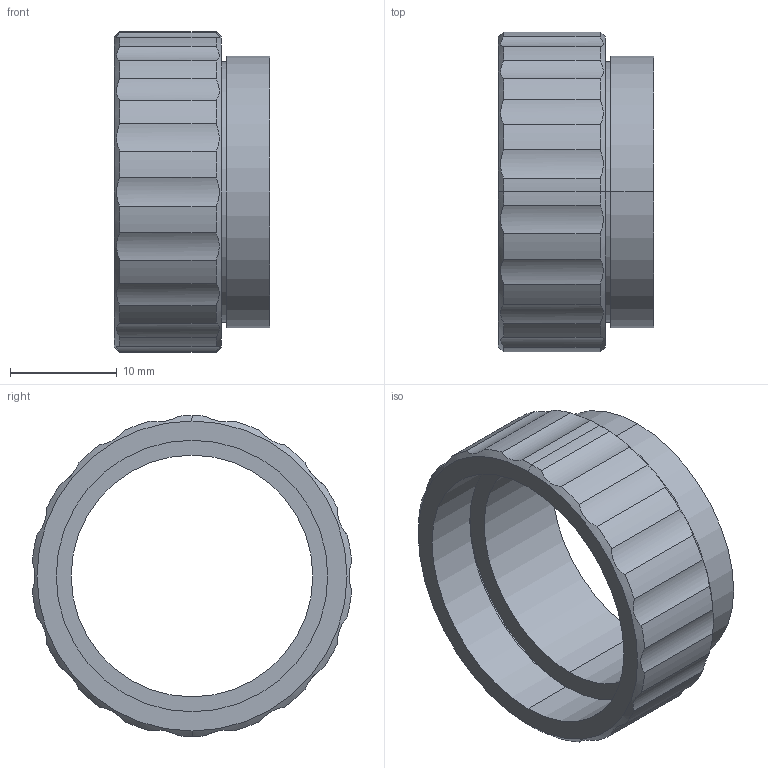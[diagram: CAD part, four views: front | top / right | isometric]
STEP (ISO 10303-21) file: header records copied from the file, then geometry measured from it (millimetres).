
FILE_DESCRIPTION (( 'STEP AP203' ), '1' );
FILE_NAME ('1857转接环C-CT10.STEP', '2022-01-12T06:07:32', ( '微软用户' ), ( '微软中国' ), 'SwSTEP 2.0', 'SolidWorks 2016', '' );
FILE_SCHEMA (( 'CONFIG_CONTROL_DESIGN' ));
Length unit declared in the file: millimetre
Products named in the file (1): 1857蛌諉遠C-CT10
Bounding box: 14.5 x 29.88 x 30 mm (x, y, z)
Volume: 2797.4 mm3; surface area: 3095 mm2
Topology: 1 solids, 1 shells, 59 faces, 157 edges, 104 vertices
Faces by surface type: cylinder 49, plane 6, cone 4
Entity records: 2256 total; most frequent: CARTESIAN_POINT 717, ORIENTED_EDGE 314, DIRECTION 301, EDGE_CURVE 157, AXIS2_PLACEMENT_3D 124, VERTEX_POINT 104, EDGE_LOOP 65, CIRCLE 64
